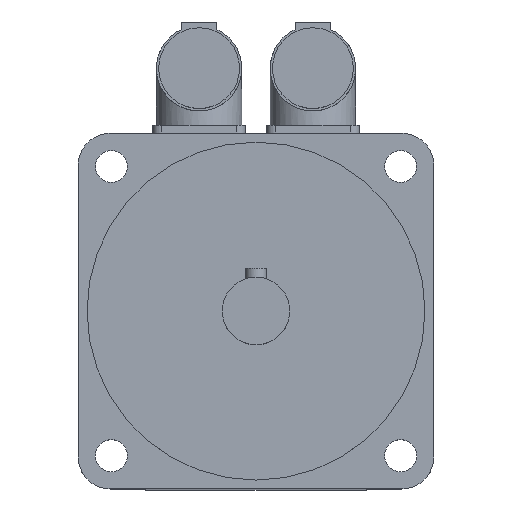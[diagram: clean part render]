
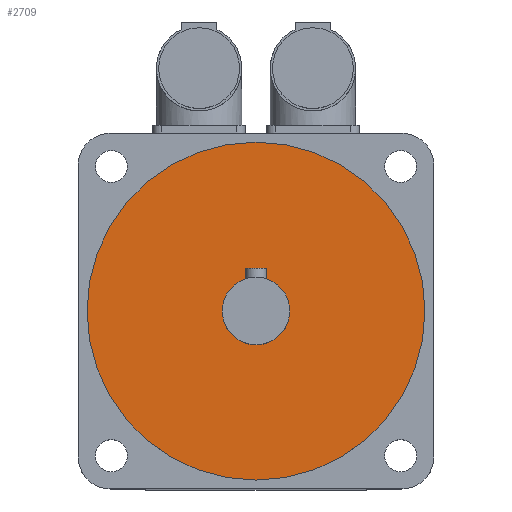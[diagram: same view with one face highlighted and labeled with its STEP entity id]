
A CAD part, top view. The second image highlights one B-rep face of the part: STEP entity #2709.
In plain terms, the highlighted planar face has unit normal (0, 0, 1).
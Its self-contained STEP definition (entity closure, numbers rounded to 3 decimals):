
#44=FACE_BOUND('',#455,.T.);
#72=CIRCLE('',#2874,9.5);
#73=CIRCLE('',#2877,47.5);
#289=FACE_OUTER_BOUND('',#454,.T.);
#454=EDGE_LOOP('',(#1842));
#455=EDGE_LOOP('',(#1843));
#1150=VERTEX_POINT('',#4096);
#1151=VERTEX_POINT('',#4100);
#1420=EDGE_CURVE('',#1150,#1150,#72,.T.);
#1421=EDGE_CURVE('',#1151,#1151,#73,.T.);
#1842=ORIENTED_EDGE('',*,*,#1421,.T.);
#1843=ORIENTED_EDGE('',*,*,#1420,.T.);
#2629=PLANE('',#2879);
#2709=ADVANCED_FACE('',(#289,#44),#2629,.F.);
#2874=AXIS2_PLACEMENT_3D('',#4097,#3197,#3198);
#2877=AXIS2_PLACEMENT_3D('',#4101,#3203,#3204);
#2879=AXIS2_PLACEMENT_3D('',#4104,#3207,#3208);
#3197=DIRECTION('center_axis',(0.,0.,-1.));
#3198=DIRECTION('ref_axis',(-1.,0.,0.));
#3203=DIRECTION('center_axis',(0.,0.,
1.));
#3204=DIRECTION('ref_axis',(-1.,0.,0.));
#3207=DIRECTION('center_axis',(0.,0.,-1.));
#3208=DIRECTION('ref_axis',(-1.,0.,0.));
#4096=CARTESIAN_POINT('',(9.5,0.,150.));
#4097=CARTESIAN_POINT('Origin',(0.,0.,
150.));
#4100=CARTESIAN_POINT('',(47.5,0.,150.));
#4101=CARTESIAN_POINT('Origin',(0.,0.,
150.));
#4104=CARTESIAN_POINT('Origin',(0.,0.,
150.));
